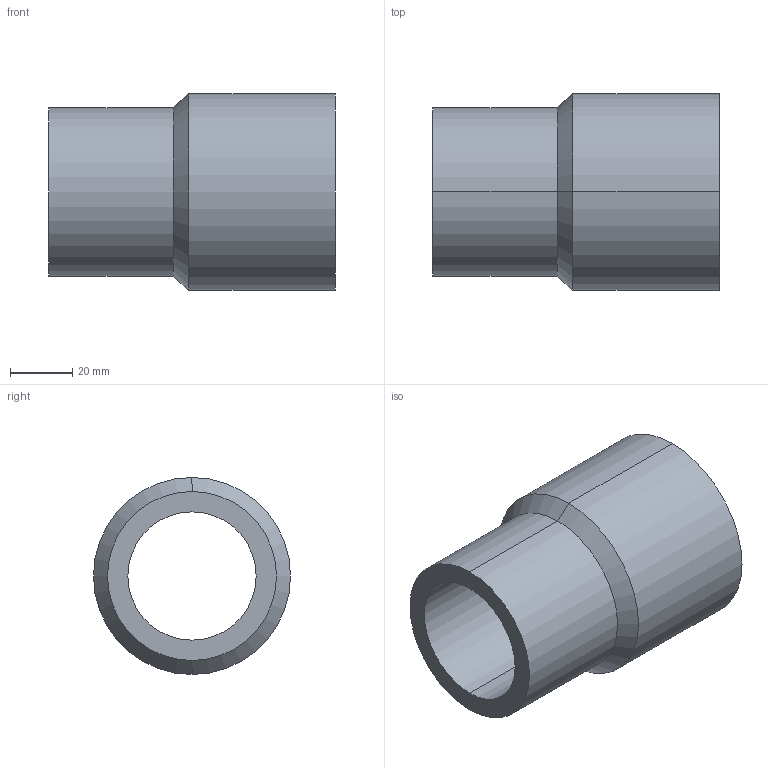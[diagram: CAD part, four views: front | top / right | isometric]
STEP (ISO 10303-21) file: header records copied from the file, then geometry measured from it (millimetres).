
FILE_DESCRIPTION (( 'STEP AP203' ), '1' );
FILE_NAME ('KP_9-63-54.step', '2011-08-08T11:41:12', ( '' ), ( '' ), 'SwSTEP 2.0', 'SolidWorks 2011', '' );
FILE_SCHEMA (( 'CONFIG_CONTROL_DESIGN' ));
Length unit declared in the file: millimetre
Products named in the file (1): KP_9-63-54
Bounding box: 92 x 63.25 x 63.25 mm (x, y, z)
Volume: 98209.7 mm3; surface area: 32984.8 mm2
Topology: 1 solids, 1 shells, 14 faces, 28 edges, 16 vertices
Faces by surface type: cylinder 8, cone 4, plane 2
Entity records: 445 total; most frequent: DIRECTION 74, CARTESIAN_POINT 59, ORIENTED_EDGE 56, AXIS2_PLACEMENT_3D 31, EDGE_CURVE 28, CIRCLE 16, EDGE_LOOP 16, VERTEX_POINT 16
